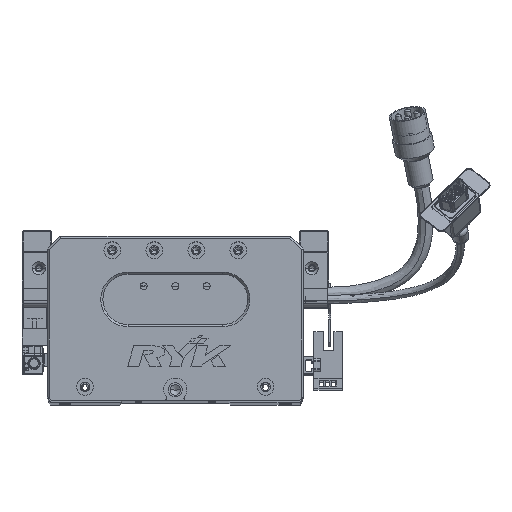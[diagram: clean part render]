
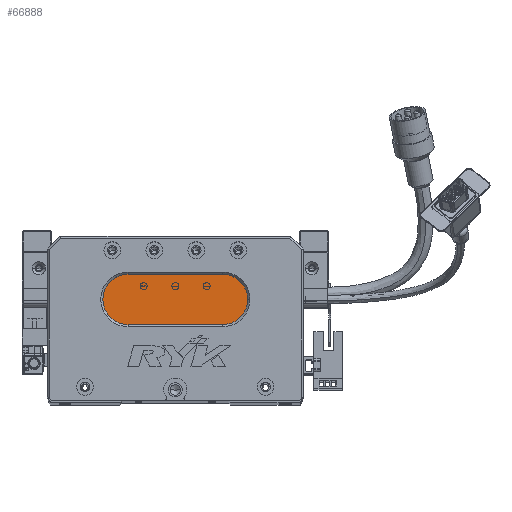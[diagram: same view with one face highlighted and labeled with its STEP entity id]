
A CAD part, top view. The second image highlights one B-rep face of the part: STEP entity #66888.
In plain terms, the highlighted planar face has unit normal (0, 0, 1) as drawn and (0, 0, -1) by its records, which use the part's own axes.
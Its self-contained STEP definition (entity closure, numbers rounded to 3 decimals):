
#162 = VERTEX_POINT ( 'NONE', #51964 ) ;
#2314 = EDGE_CURVE ( 'NONE', #23511, #2895, #28113, .T. ) ;
#2895 = VERTEX_POINT ( 'NONE', #15165 ) ;
#5262 = CIRCLE ( 'NONE', #11481, 12. ) ;
#7235 = DIRECTION ( 'NONE',  ( -1., 0., 0. ) ) ;
#9748 = AXIS2_PLACEMENT_3D ( 'NONE', #59432, #72433, #35637 ) ;
#10031 = DIRECTION ( 'NONE',  ( 0., 0., -1. ) ) ;
#11481 = AXIS2_PLACEMENT_3D ( 'NONE', #21864, #10031, #63674 ) ;
#11492 = CARTESIAN_POINT ( 'NONE',  ( 83.5, 36., 13. ) ) ;
#12720 = DIRECTION ( 'NONE',  ( 1., 0., 0. ) ) ;
#15165 = CARTESIAN_POINT ( 'NONE',  ( 26.5, 48., 13. ) ) ;
#21864 = CARTESIAN_POINT ( 'NONE',  ( 83.5, 48., 13. ) ) ;
#21963 = CARTESIAN_POINT ( 'NONE',  ( 83.5, 48., 13. ) ) ;
#23511 = VERTEX_POINT ( 'NONE', #60113 ) ;
#24207 = ORIENTED_EDGE ( 'NONE', *, *, #62625, .T. ) ;
#24808 = EDGE_CURVE ( 'NONE', #2895, #162, #64796, .T. ) ;
#25322 = ORIENTED_EDGE ( 'NONE', *, *, #24808, .T. ) ;
#26799 = ORIENTED_EDGE ( 'NONE', *, *, #65719, .T. ) ;
#28113 = CIRCLE ( 'NONE', #40787, 12. ) ;
#29256 = DIRECTION ( 'NONE',  ( -1., 0., 0. ) ) ;
#31562 = EDGE_LOOP ( 'NONE', ( #24207, #72149, #66673, #25322, #26799 ) ) ;
#33094 = CARTESIAN_POINT ( 'NONE',  ( 83.5, 60., 13. ) ) ;
#33899 = LINE ( 'NONE', #11492, #48835 ) ;
#35637 = DIRECTION ( 'NONE',  ( -1., 0., 0. ) ) ;
#36542 = FACE_OUTER_BOUND ( 'NONE', #31562, .T. ) ;
#36606 = LINE ( 'NONE', #60379, #71173 ) ;
#38204 = CARTESIAN_POINT ( 'NONE',  ( 83.5, 36., 13. ) ) ;
#39764 = DIRECTION ( 'NONE',  ( -1., 0., 0. ) ) ;
#40787 = AXIS2_PLACEMENT_3D ( 'NONE', #65290, #76836, #29256 ) ;
#48303 = VERTEX_POINT ( 'NONE', #33094 ) ;
#48835 = VECTOR ( 'NONE', #7235, 1000. ) ;
#49149 = EDGE_CURVE ( 'NONE', #72198, #23511, #33899, .T. ) ;
#51964 = CARTESIAN_POINT ( 'NONE',  ( 38.5, 60., 13. ) ) ;
#57790 = PLANE ( 'NONE',  #72878 ) ;
#59432 = CARTESIAN_POINT ( 'NONE',  ( 38.5, 48., 13. ) ) ;
#60113 = CARTESIAN_POINT ( 'NONE',  ( 38.5, 36., 13. ) ) ;
#60379 = CARTESIAN_POINT ( 'NONE',  ( 83.5, 60., 13. ) ) ;
#62625 = EDGE_CURVE ( 'NONE', #48303, #72198, #5262, .T. ) ;
#63674 = DIRECTION ( 'NONE',  ( -1., 0., 0. ) ) ;
#64796 = CIRCLE ( 'NONE', #9748, 12. ) ;
#65290 = CARTESIAN_POINT ( 'NONE',  ( 38.5, 48., 13. ) ) ;
#65719 = EDGE_CURVE ( 'NONE', #162, #48303, #36606, .T. ) ;
#66673 = ORIENTED_EDGE ( 'NONE', *, *, #2314, .T. ) ;
#66888 = ADVANCED_FACE ( 'NONE', ( #36542 ), #57790, .T. ) ;
#71173 = VECTOR ( 'NONE', #12720, 1000. ) ;
#72149 = ORIENTED_EDGE ( 'NONE', *, *, #49149, .T. ) ;
#72198 = VERTEX_POINT ( 'NONE', #38204 ) ;
#72433 = DIRECTION ( 'NONE',  ( 0., 0., -1. ) ) ;
#72878 = AXIS2_PLACEMENT_3D ( 'NONE', #21963, #75258, #39764 ) ;
#75258 = DIRECTION ( 'NONE',  ( 0., 0., -1. ) ) ;
#76836 = DIRECTION ( 'NONE',  ( 0., 0., -1. ) ) ;
